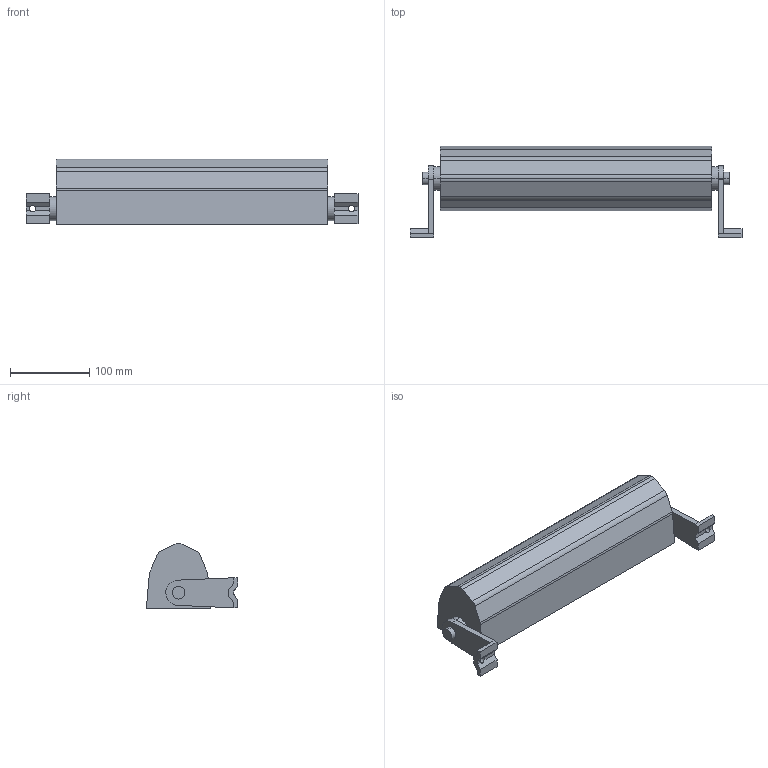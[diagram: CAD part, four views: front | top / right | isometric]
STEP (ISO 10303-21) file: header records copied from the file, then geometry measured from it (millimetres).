
FILE_DESCRIPTION (( 'STEP AP214' ), '1' );
FILE_NAME ('ST-LBHP400W.STEP', '2021-01-20T16:49:48', ( '' ), ( '' ), 'SwSTEP 2.0', 'SolidWorks 2015', '' );
FILE_SCHEMA (( 'AUTOMOTIVE_DESIGN' ));
Length unit declared in the file: millimetre
Products named in the file (1): ST-LBHP400W
Bounding box: 418 x 114.92 x 82.15 mm (x, y, z)
Volume: 1665927.2 mm3; surface area: 140265.9 mm2
Topology: 1 solids, 1 shells, 81 faces, 217 edges, 144 vertices
Faces by surface type: plane 57, cylinder 24
Entity records: 3456 total; most frequent: CARTESIAN_POINT 467, ORIENTED_EDGE 434, DIRECTION 421, EDGE_CURVE 217, LINE 161, VECTOR 161, VERTEX_POINT 144, AXIS2_PLACEMENT_3D 130
